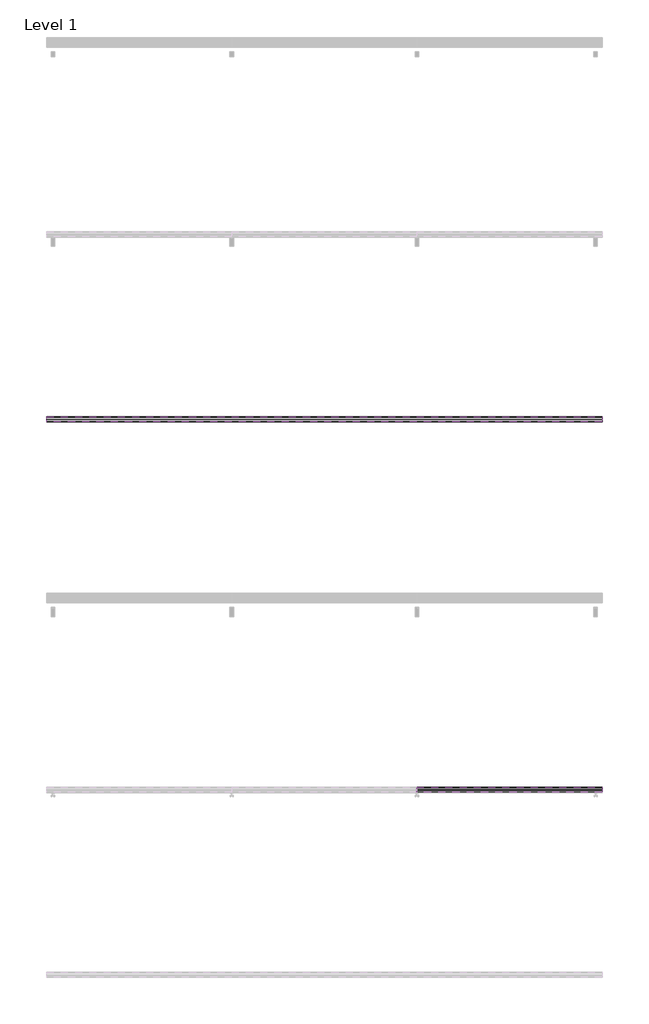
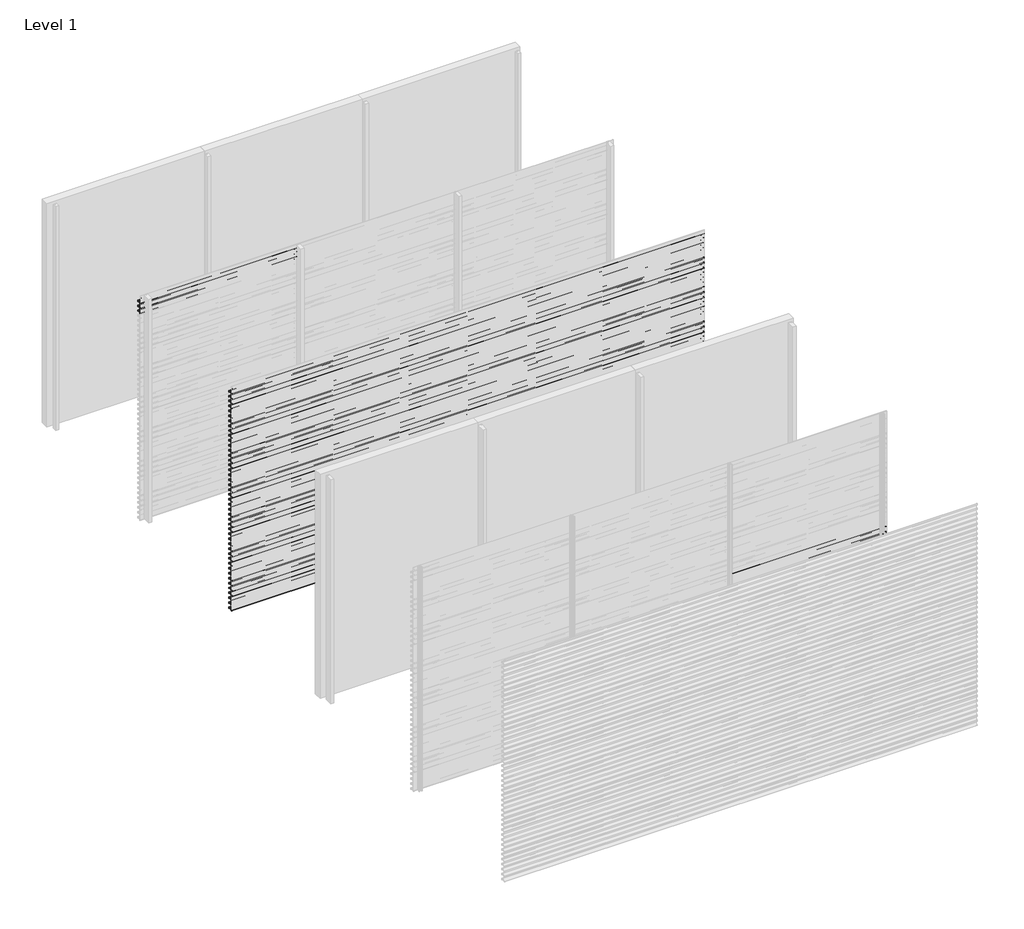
# One storey, part 10 of 27: 71 proxies.
"""IFC4 building model written with IfcOpenShell, lengths in millimetres."""

from ifc_helpers import new_model, si_unit, frame, origin, place, context, project, spatial, polyline, outline, extrude, element, save

model = new_model("IFC4")

# Units and contexts
model_context = context("Model", 3, world=origin())
ifc_project = project(units=[si_unit("LENGTHUNIT", "METRE", prefix="MILLI")], contexts=[model_context])

# Site, building, storey
site = spatial("IfcSite", under=ifc_project)
building = spatial("IfcBuilding", under=site)
storey = spatial("IfcBuildingStorey", under=building, Name="Level 1", Elevation=0.0)

# Proxies
placement = place(None, origin())
element("IfcBuildingElementProxy", 1, Name="Wall Sweeps", at=placement, inside=storey, context=model_context, shape_type="SweptSolid", body=[
    extrude(outline(polyline([(-35943.0, 2913.2), (-35943.0, 2893.5), (-35944.25, 2894.5866084), (-35944.25, 2912.4872415), (-35963.0322086, 2925.6010889), (-35995.1332975, 2893.5), (-35996.0525363, 2894.4192388), (-35964.1148087, 2926.3569665), (-35998.0, 2950.0158044), (-35998.0, 2970.0), (-35996.75, 2970.0), (-35996.75, 2950.7285629), (-35943.0, 2913.2)])), frame((0.0, 0.0, 0.0), z_axis=(1.0, 0.0, 0.0), x_axis=(0.0, 1.0, 0.0)), (0.0, 0.0, 1.0), 2000.0),
])
element("IfcBuildingElementProxy", 2, Name="Wall Sweeps", at=placement, inside=storey, context=model_context, shape_type="SweptSolid", body=[
    extrude(outline(polyline([(-35943.0, 2847.2), (-35943.0, 2827.5), (-35944.25, 2828.5866084), (-35944.25, 2846.4872415), (-35963.0322086, 2859.6010889), (-35995.1332975, 2827.5), (-35996.0525363, 2828.4192388), (-35964.1148087, 2860.3569665), (-35998.0, 2884.0158044), (-35998.0, 2904.0), (-35996.75, 2904.0), (-35996.75, 2884.7285629), (-35943.0, 2847.2)])), frame((0.0, 0.0, 0.0), z_axis=(1.0, 0.0, 0.0), x_axis=(0.0, 1.0, 0.0)), (0.0, 0.0, 1.0), 2000.0),
])
element("IfcBuildingElementProxy", 3, Name="Wall Sweeps", at=placement, inside=storey, context=model_context, shape_type="SweptSolid", body=[
    extrude(outline(polyline([(-35943.0, 2781.2), (-35943.0, 2761.5), (-35944.25, 2762.5866084), (-35944.25, 2780.4872415), (-35963.0322086, 2793.6010889), (-35995.1332975, 2761.5), (-35996.0525363, 2762.4192388), (-35964.1148087, 2794.3569665), (-35998.0, 2818.0158044), (-35998.0, 2838.0), (-35996.75, 2838.0), (-35996.75, 2818.7285629), (-35943.0, 2781.2)])), frame((0.0, 0.0, 0.0), z_axis=(1.0, 0.0, 0.0), x_axis=(0.0, 1.0, 0.0)), (0.0, 0.0, 1.0), 2000.0),
])
element("IfcBuildingElementProxy", 4, Name="Wall Sweeps", at=placement, inside=storey, context=model_context, shape_type="SweptSolid", body=[
    extrude(outline(polyline([(-37943.0, 2913.2), (-37943.0, 2893.5), (-37944.25, 2894.5866084), (-37944.25, 2912.4872415), (-37963.0322086, 2925.6010889), (-37995.1332975, 2893.5), (-37996.0525363, 2894.4192388), (-37964.1148087, 2926.3569665), (-37998.0, 2950.0158044), (-37998.0, 2970.0), (-37996.75, 2970.0), (-37996.75, 2950.7285629), (-37943.0, 2913.2)])), frame((0.0, 0.0, 0.0), z_axis=(1.0, 0.0, 0.0), x_axis=(0.0, 1.0, 0.0)), (0.0, 0.0, 1.0), 6000.0),
])
element("IfcBuildingElementProxy", 5, Name="Wall Sweeps", at=placement, inside=storey, context=model_context, shape_type="SweptSolid", body=[
    extrude(outline(polyline([(-37943.0, 2847.2), (-37943.0, 2827.5), (-37944.25, 2828.5866084), (-37944.25, 2846.4872415), (-37963.0322086, 2859.6010889), (-37995.1332975, 2827.5), (-37996.0525363, 2828.4192388), (-37964.1148087, 2860.3569665), (-37998.0, 2884.0158044), (-37998.0, 2904.0), (-37996.75, 2904.0), (-37996.75, 2884.7285629), (-37943.0, 2847.2)])), frame((0.0, 0.0, 0.0), z_axis=(1.0, 0.0, 0.0), x_axis=(0.0, 1.0, 0.0)), (0.0, 0.0, 1.0), 6000.0),
])
element("IfcBuildingElementProxy", 6, Name="Wall Sweeps", at=placement, inside=storey, context=model_context, shape_type="SweptSolid", body=[
    extrude(outline(polyline([(-37943.0, 2781.2), (-37943.0, 2761.5), (-37944.25, 2762.5866084), (-37944.25, 2780.4872415), (-37963.0322086, 2793.6010889), (-37995.1332975, 2761.5), (-37996.0525363, 2762.4192388), (-37964.1148087, 2794.3569665), (-37998.0, 2818.0158044), (-37998.0, 2838.0), (-37996.75, 2838.0), (-37996.75, 2818.7285629), (-37943.0, 2781.2)])), frame((0.0, 0.0, 0.0), z_axis=(1.0, 0.0, 0.0), x_axis=(0.0, 1.0, 0.0)), (0.0, 0.0, 1.0), 6000.0),
])
element("IfcBuildingElementProxy", 7, Name="Wall Sweeps", at=placement, inside=storey, context=model_context, shape_type="SweptSolid", body=[
    extrude(outline(polyline([(-37943.0, 2715.2), (-37943.0, 2695.5), (-37944.25, 2696.5866084), (-37944.25, 2714.4872415), (-37963.0322086, 2727.6010889), (-37995.1332975, 2695.5), (-37996.0525363, 2696.4192388), (-37964.1148087, 2728.3569665), (-37998.0, 2752.0158044), (-37998.0, 2772.0), (-37996.75, 2772.0), (-37996.75, 2752.7285629), (-37943.0, 2715.2)])), frame((0.0, 0.0, 0.0), z_axis=(1.0, 0.0, 0.0), x_axis=(0.0, 1.0, 0.0)), (0.0, 0.0, 1.0), 6000.0),
])
element("IfcBuildingElementProxy", 8, Name="Wall Sweeps", at=placement, inside=storey, context=model_context, shape_type="SweptSolid", body=[
    extrude(outline(polyline([(-37943.0, 2649.2), (-37943.0, 2629.5), (-37944.25, 2630.5866084), (-37944.25, 2648.4872415), (-37963.0322086, 2661.6010889), (-37995.1332975, 2629.5), (-37996.0525363, 2630.4192388), (-37964.1148087, 2662.3569665), (-37998.0, 2686.0158044), (-37998.0, 2706.0), (-37996.75, 2706.0), (-37996.75, 2686.7285629), (-37943.0, 2649.2)])), frame((0.0, 0.0, 0.0), z_axis=(1.0, 0.0, 0.0), x_axis=(0.0, 1.0, 0.0)), (0.0, 0.0, 1.0), 6000.0),
])
element("IfcBuildingElementProxy", 9, Name="Wall Sweeps", at=placement, inside=storey, context=model_context, shape_type="SweptSolid", body=[
    extrude(outline(polyline([(-37943.0, 2583.2), (-37943.0, 2563.5), (-37944.25, 2564.5866084), (-37944.25, 2582.4872415), (-37963.0322086, 2595.6010889), (-37995.1332975, 2563.5), (-37996.0525363, 2564.4192388), (-37964.1148087, 2596.3569665), (-37998.0, 2620.0158044), (-37998.0, 2640.0), (-37996.75, 2640.0), (-37996.75, 2620.7285629), (-37943.0, 2583.2)])), frame((0.0, 0.0, 0.0), z_axis=(1.0, 0.0, 0.0), x_axis=(0.0, 1.0, 0.0)), (0.0, 0.0, 1.0), 6000.0),
])
element("IfcBuildingElementProxy", 10, Name="Wall Sweeps", at=placement, inside=storey, context=model_context, shape_type="SweptSolid", body=[
    extrude(outline(polyline([(-37943.0, 2517.2), (-37943.0, 2497.5), (-37944.25, 2498.5866084), (-37944.25, 2516.4872415), (-37963.0322086, 2529.6010889), (-37995.1332975, 2497.5), (-37996.0525363, 2498.4192388), (-37964.1148087, 2530.3569665), (-37998.0, 2554.0158044), (-37998.0, 2574.0), (-37996.75, 2574.0), (-37996.75, 2554.7285629), (-37943.0, 2517.2)])), frame((0.0, 0.0, 0.0), z_axis=(1.0, 0.0, 0.0), x_axis=(0.0, 1.0, 0.0)), (0.0, 0.0, 1.0), 6000.0),
])
element("IfcBuildingElementProxy", 11, Name="Wall Sweeps", at=placement, inside=storey, context=model_context, shape_type="SweptSolid", body=[
    extrude(outline(polyline([(-37943.0, 2451.2), (-37943.0, 2431.5), (-37944.25, 2432.5866084), (-37944.25, 2450.4872415), (-37963.0322086, 2463.6010889), (-37995.1332975, 2431.5), (-37996.0525363, 2432.4192388), (-37964.1148087, 2464.3569665), (-37998.0, 2488.0158044), (-37998.0, 2508.0), (-37996.75, 2508.0), (-37996.75, 2488.7285629), (-37943.0, 2451.2)])), frame((0.0, 0.0, 0.0), z_axis=(1.0, 0.0, 0.0), x_axis=(0.0, 1.0, 0.0)), (0.0, 0.0, 1.0), 6000.0),
])
element("IfcBuildingElementProxy", 12, Name="Wall Sweeps", at=placement, inside=storey, context=model_context, shape_type="SweptSolid", body=[
    extrude(outline(polyline([(-37943.0, 2385.2), (-37943.0, 2365.5), (-37944.25, 2366.5866084), (-37944.25, 2384.4872415), (-37963.0322086, 2397.6010889), (-37995.1332975, 2365.5), (-37996.0525363, 2366.4192388), (-37964.1148087, 2398.3569665), (-37998.0, 2422.0158044), (-37998.0, 2442.0), (-37996.75, 2442.0), (-37996.75, 2422.7285629), (-37943.0, 2385.2)])), frame((0.0, 0.0, 0.0), z_axis=(1.0, 0.0, 0.0), x_axis=(0.0, 1.0, 0.0)), (0.0, 0.0, 1.0), 6000.0),
])
element("IfcBuildingElementProxy", 13, Name="Wall Sweeps", at=placement, inside=storey, context=model_context, shape_type="SweptSolid", body=[
    extrude(outline(polyline([(-37943.0, 2319.2), (-37943.0, 2299.5), (-37944.25, 2300.5866084), (-37944.25, 2318.4872415), (-37963.0322086, 2331.6010889), (-37995.1332975, 2299.5), (-37996.0525363, 2300.4192388), (-37964.1148087, 2332.3569665), (-37998.0, 2356.0158044), (-37998.0, 2376.0), (-37996.75, 2376.0), (-37996.75, 2356.7285629), (-37943.0, 2319.2)])), frame((0.0, 0.0, 0.0), z_axis=(1.0, 0.0, 0.0), x_axis=(0.0, 1.0, 0.0)), (0.0, 0.0, 1.0), 6000.0),
])
element("IfcBuildingElementProxy", 14, Name="Wall Sweeps", at=placement, inside=storey, context=model_context, shape_type="SweptSolid", body=[
    extrude(outline(polyline([(-37943.0, 2253.2), (-37943.0, 2233.5), (-37944.25, 2234.5866084), (-37944.25, 2252.4872415), (-37963.0322086, 2265.6010889), (-37995.1332975, 2233.5), (-37996.0525363, 2234.4192388), (-37964.1148087, 2266.3569665), (-37998.0, 2290.0158044), (-37998.0, 2310.0), (-37996.75, 2310.0), (-37996.75, 2290.7285629), (-37943.0, 2253.2)])), frame((0.0, 0.0, 0.0), z_axis=(1.0, 0.0, 0.0), x_axis=(0.0, 1.0, 0.0)), (0.0, 0.0, 1.0), 6000.0),
])
element("IfcBuildingElementProxy", 15, Name="Wall Sweeps", at=placement, inside=storey, context=model_context, shape_type="SweptSolid", body=[
    extrude(outline(polyline([(-37943.0, 2187.2), (-37943.0, 2167.5), (-37944.25, 2168.5866084), (-37944.25, 2186.4872415), (-37963.0322086, 2199.6010889), (-37995.1332975, 2167.5), (-37996.0525363, 2168.4192388), (-37964.1148087, 2200.3569665), (-37998.0, 2224.0158044), (-37998.0, 2244.0), (-37996.75, 2244.0), (-37996.75, 2224.7285629), (-37943.0, 2187.2)])), frame((0.0, 0.0, 0.0), z_axis=(1.0, 0.0, 0.0), x_axis=(0.0, 1.0, 0.0)), (0.0, 0.0, 1.0), 6000.0),
])
element("IfcBuildingElementProxy", 16, Name="Wall Sweeps", at=placement, inside=storey, context=model_context, shape_type="SweptSolid", body=[
    extrude(outline(polyline([(-37943.0, 2121.2), (-37943.0, 2101.5), (-37944.25, 2102.5866084), (-37944.25, 2120.4872415), (-37963.0322086, 2133.6010889), (-37995.1332975, 2101.5), (-37996.0525363, 2102.4192388), (-37964.1148087, 2134.3569665), (-37998.0, 2158.0158044), (-37998.0, 2178.0), (-37996.75, 2178.0), (-37996.75, 2158.7285629), (-37943.0, 2121.2)])), frame((0.0, 0.0, 0.0), z_axis=(1.0, 0.0, 0.0), x_axis=(0.0, 1.0, 0.0)), (0.0, 0.0, 1.0), 6000.0),
])
element("IfcBuildingElementProxy", 17, Name="Wall Sweeps", at=placement, inside=storey, context=model_context, shape_type="SweptSolid", body=[
    extrude(outline(polyline([(-37943.0, 2055.2), (-37943.0, 2035.5), (-37944.25, 2036.5866084), (-37944.25, 2054.4872415), (-37963.0322086, 2067.6010889), (-37995.1332975, 2035.5), (-37996.0525363, 2036.4192388), (-37964.1148087, 2068.3569665), (-37998.0, 2092.0158044), (-37998.0, 2112.0), (-37996.75, 2112.0), (-37996.75, 2092.7285629), (-37943.0, 2055.2)])), frame((0.0, 0.0, 0.0), z_axis=(1.0, 0.0, 0.0), x_axis=(0.0, 1.0, 0.0)), (0.0, 0.0, 1.0), 6000.0),
])
element("IfcBuildingElementProxy", 18, Name="Wall Sweeps", at=placement, inside=storey, context=model_context, shape_type="SweptSolid", body=[
    extrude(outline(polyline([(-37943.0, 1989.2), (-37943.0, 1969.5), (-37944.25, 1970.5866084), (-37944.25, 1988.4872415), (-37963.0322086, 2001.6010889), (-37995.1332975, 1969.5), (-37996.0525363, 1970.4192388), (-37964.1148087, 2002.3569665), (-37998.0, 2026.0158044), (-37998.0, 2046.0), (-37996.75, 2046.0), (-37996.75, 2026.7285629), (-37943.0, 1989.2)])), frame((0.0, 0.0, 0.0), z_axis=(1.0, 0.0, 0.0), x_axis=(0.0, 1.0, 0.0)), (0.0, 0.0, 1.0), 6000.0),
])
element("IfcBuildingElementProxy", 19, Name="Wall Sweeps", at=placement, inside=storey, context=model_context, shape_type="SweptSolid", body=[
    extrude(outline(polyline([(-37943.0, 1923.2), (-37943.0, 1903.5), (-37944.25, 1904.5866084), (-37944.25, 1922.4872415), (-37963.0322086, 1935.6010889), (-37995.1332975, 1903.5), (-37996.0525363, 1904.4192388), (-37964.1148087, 1936.3569665), (-37998.0, 1960.0158044), (-37998.0, 1980.0), (-37996.75, 1980.0), (-37996.75, 1960.7285629), (-37943.0, 1923.2)])), frame((0.0, 0.0, 0.0), z_axis=(1.0, 0.0, 0.0), x_axis=(0.0, 1.0, 0.0)), (0.0, 0.0, 1.0), 6000.0),
])
element("IfcBuildingElementProxy", 20, Name="Wall Sweeps", at=placement, inside=storey, context=model_context, shape_type="SweptSolid", body=[
    extrude(outline(polyline([(-37943.0, 1857.2), (-37943.0, 1837.5), (-37944.25, 1838.5866084), (-37944.25, 1856.4872415), (-37963.0322086, 1869.6010889), (-37995.1332975, 1837.5), (-37996.0525363, 1838.4192388), (-37964.1148087, 1870.3569665), (-37998.0, 1894.0158044), (-37998.0, 1914.0), (-37996.75, 1914.0), (-37996.75, 1894.7285629), (-37943.0, 1857.2)])), frame((0.0, 0.0, 0.0), z_axis=(1.0, 0.0, 0.0), x_axis=(0.0, 1.0, 0.0)), (0.0, 0.0, 1.0), 6000.0),
])
element("IfcBuildingElementProxy", 21, Name="Wall Sweeps", at=placement, inside=storey, context=model_context, shape_type="SweptSolid", body=[
    extrude(outline(polyline([(-37943.0, 1791.2), (-37943.0, 1771.5), (-37944.25, 1772.5866084), (-37944.25, 1790.4872415), (-37963.0322086, 1803.6010889), (-37995.1332975, 1771.5), (-37996.0525363, 1772.4192388), (-37964.1148087, 1804.3569665), (-37998.0, 1828.0158044), (-37998.0, 1848.0), (-37996.75, 1848.0), (-37996.75, 1828.7285629), (-37943.0, 1791.2)])), frame((0.0, 0.0, 0.0), z_axis=(1.0, 0.0, 0.0), x_axis=(0.0, 1.0, 0.0)), (0.0, 0.0, 1.0), 6000.0),
])
element("IfcBuildingElementProxy", 22, Name="Wall Sweeps", at=placement, inside=storey, context=model_context, shape_type="SweptSolid", body=[
    extrude(outline(polyline([(-37943.0, 1725.2), (-37943.0, 1705.5), (-37944.25, 1706.5866084), (-37944.25, 1724.4872415), (-37963.0322086, 1737.6010889), (-37995.1332975, 1705.5), (-37996.0525363, 1706.4192388), (-37964.1148087, 1738.3569665), (-37998.0, 1762.0158044), (-37998.0, 1782.0), (-37996.75, 1782.0), (-37996.75, 1762.7285629), (-37943.0, 1725.2)])), frame((0.0, 0.0, 0.0), z_axis=(1.0, 0.0, 0.0), x_axis=(0.0, 1.0, 0.0)), (0.0, 0.0, 1.0), 6000.0),
])
element("IfcBuildingElementProxy", 23, Name="Wall Sweeps", at=placement, inside=storey, context=model_context, shape_type="SweptSolid", body=[
    extrude(outline(polyline([(-37943.0, 1659.2), (-37943.0, 1639.5), (-37944.25, 1640.5866084), (-37944.25, 1658.4872415), (-37963.0322086, 1671.6010889), (-37995.1332975, 1639.5), (-37996.0525363, 1640.4192388), (-37964.1148087, 1672.3569665), (-37998.0, 1696.0158044), (-37998.0, 1716.0), (-37996.75, 1716.0), (-37996.75, 1696.7285629), (-37943.0, 1659.2)])), frame((0.0, 0.0, 0.0), z_axis=(1.0, 0.0, 0.0), x_axis=(0.0, 1.0, 0.0)), (0.0, 0.0, 1.0), 6000.0),
])
element("IfcBuildingElementProxy", 24, Name="Wall Sweeps", at=placement, inside=storey, context=model_context, shape_type="SweptSolid", body=[
    extrude(outline(polyline([(-37943.0, 1593.2), (-37943.0, 1573.5), (-37944.25, 1574.5866084), (-37944.25, 1592.4872415), (-37963.0322086, 1605.6010889), (-37995.1332975, 1573.5), (-37996.0525363, 1574.4192388), (-37964.1148087, 1606.3569665), (-37998.0, 1630.0158044), (-37998.0, 1650.0), (-37996.75, 1650.0), (-37996.75, 1630.7285629), (-37943.0, 1593.2)])), frame((0.0, 0.0, 0.0), z_axis=(1.0, 0.0, 0.0), x_axis=(0.0, 1.0, 0.0)), (0.0, 0.0, 1.0), 6000.0),
])
element("IfcBuildingElementProxy", 25, Name="Wall Sweeps", at=placement, inside=storey, context=model_context, shape_type="SweptSolid", body=[
    extrude(outline(polyline([(-37943.0, 1527.2), (-37943.0, 1507.5), (-37944.25, 1508.5866084), (-37944.25, 1526.4872415), (-37963.0322086, 1539.6010889), (-37995.1332975, 1507.5), (-37996.0525363, 1508.4192388), (-37964.1148087, 1540.3569665), (-37998.0, 1564.0158044), (-37998.0, 1584.0), (-37996.75, 1584.0), (-37996.75, 1564.7285629), (-37943.0, 1527.2)])), frame((0.0, 0.0, 0.0), z_axis=(1.0, 0.0, 0.0), x_axis=(0.0, 1.0, 0.0)), (0.0, 0.0, 1.0), 6000.0),
])
element("IfcBuildingElementProxy", 26, Name="Wall Sweeps", at=placement, inside=storey, context=model_context, shape_type="SweptSolid", body=[
    extrude(outline(polyline([(-37943.0, 1461.2), (-37943.0, 1441.5), (-37944.25, 1442.5866084), (-37944.25, 1460.4872415), (-37963.0322086, 1473.6010889), (-37995.1332975, 1441.5), (-37996.0525363, 1442.4192388), (-37964.1148087, 1474.3569665), (-37998.0, 1498.0158044), (-37998.0, 1518.0), (-37996.75, 1518.0), (-37996.75, 1498.7285629), (-37943.0, 1461.2)])), frame((0.0, 0.0, 0.0), z_axis=(1.0, 0.0, 0.0), x_axis=(0.0, 1.0, 0.0)), (0.0, 0.0, 1.0), 6000.0),
])
element("IfcBuildingElementProxy", 27, Name="Wall Sweeps", at=placement, inside=storey, context=model_context, shape_type="SweptSolid", body=[
    extrude(outline(polyline([(-37943.0, 1395.2), (-37943.0, 1375.5), (-37944.25, 1376.5866084), (-37944.25, 1394.4872415), (-37963.0322086, 1407.6010889), (-37995.1332975, 1375.5), (-37996.0525363, 1376.4192388), (-37964.1148087, 1408.3569665), (-37998.0, 1432.0158044), (-37998.0, 1452.0), (-37996.75, 1452.0), (-37996.75, 1432.7285629), (-37943.0, 1395.2)])), frame((0.0, 0.0, 0.0), z_axis=(1.0, 0.0, 0.0), x_axis=(0.0, 1.0, 0.0)), (0.0, 0.0, 1.0), 6000.0),
])
element("IfcBuildingElementProxy", 28, Name="Wall Sweeps", at=placement, inside=storey, context=model_context, shape_type="SweptSolid", body=[
    extrude(outline(polyline([(-37943.0, 1329.2), (-37943.0, 1309.5), (-37944.25, 1310.5866084), (-37944.25, 1328.4872415), (-37963.0322086, 1341.6010889), (-37995.1332975, 1309.5), (-37996.0525363, 1310.4192388), (-37964.1148087, 1342.3569665), (-37998.0, 1366.0158044), (-37998.0, 1386.0), (-37996.75, 1386.0), (-37996.75, 1366.7285629), (-37943.0, 1329.2)])), frame((0.0, 0.0, 0.0), z_axis=(1.0, 0.0, 0.0), x_axis=(0.0, 1.0, 0.0)), (0.0, 0.0, 1.0), 6000.0),
])
element("IfcBuildingElementProxy", 29, Name="Wall Sweeps", at=placement, inside=storey, context=model_context, shape_type="SweptSolid", body=[
    extrude(outline(polyline([(-37943.0, 1263.2), (-37943.0, 1243.5), (-37944.25, 1244.5866084), (-37944.25, 1262.4872415), (-37963.0322086, 1275.6010889), (-37995.1332975, 1243.5), (-37996.0525363, 1244.4192388), (-37964.1148087, 1276.3569665), (-37998.0, 1300.0158044), (-37998.0, 1320.0), (-37996.75, 1320.0), (-37996.75, 1300.7285629), (-37943.0, 1263.2)])), frame((0.0, 0.0, 0.0), z_axis=(1.0, 0.0, 0.0), x_axis=(0.0, 1.0, 0.0)), (0.0, 0.0, 1.0), 6000.0),
])
element("IfcBuildingElementProxy", 30, Name="Wall Sweeps", at=placement, inside=storey, context=model_context, shape_type="SweptSolid", body=[
    extrude(outline(polyline([(-37943.0, 1197.2), (-37943.0, 1177.5), (-37944.25, 1178.5866084), (-37944.25, 1196.4872415), (-37963.0322086, 1209.6010889), (-37995.1332975, 1177.5), (-37996.0525363, 1178.4192388), (-37964.1148087, 1210.3569665), (-37998.0, 1234.0158044), (-37998.0, 1254.0), (-37996.75, 1254.0), (-37996.75, 1234.7285629), (-37943.0, 1197.2)])), frame((0.0, 0.0, 0.0), z_axis=(1.0, 0.0, 0.0), x_axis=(0.0, 1.0, 0.0)), (0.0, 0.0, 1.0), 6000.0),
])
element("IfcBuildingElementProxy", 31, Name="Wall Sweeps", at=placement, inside=storey, context=model_context, shape_type="SweptSolid", body=[
    extrude(outline(polyline([(-37943.0, 1131.2), (-37943.0, 1111.5), (-37944.25, 1112.5866084), (-37944.25, 1130.4872415), (-37963.0322086, 1143.6010889), (-37995.1332975, 1111.5), (-37996.0525363, 1112.4192388), (-37964.1148087, 1144.3569665), (-37998.0, 1168.0158044), (-37998.0, 1188.0), (-37996.75, 1188.0), (-37996.75, 1168.7285629), (-37943.0, 1131.2)])), frame((0.0, 0.0, 0.0), z_axis=(1.0, 0.0, 0.0), x_axis=(0.0, 1.0, 0.0)), (0.0, 0.0, 1.0), 6000.0),
])
element("IfcBuildingElementProxy", 32, Name="Wall Sweeps", at=placement, inside=storey, context=model_context, shape_type="SweptSolid", body=[
    extrude(outline(polyline([(-37943.0, 1065.2), (-37943.0, 1045.5), (-37944.25, 1046.5866084), (-37944.25, 1064.4872415), (-37963.0322086, 1077.6010889), (-37995.1332975, 1045.5), (-37996.0525363, 1046.4192388), (-37964.1148087, 1078.3569665), (-37998.0, 1102.0158044), (-37998.0, 1122.0), (-37996.75, 1122.0), (-37996.75, 1102.7285629), (-37943.0, 1065.2)])), frame((0.0, 0.0, 0.0), z_axis=(1.0, 0.0, 0.0), x_axis=(0.0, 1.0, 0.0)), (0.0, 0.0, 1.0), 6000.0),
])
element("IfcBuildingElementProxy", 33, Name="Wall Sweeps", at=placement, inside=storey, context=model_context, shape_type="SweptSolid", body=[
    extrude(outline(polyline([(-37943.0, 999.2), (-37943.0, 979.5), (-37944.25, 980.5866084), (-37944.25, 998.4872415), (-37963.0322086, 1011.6010889), (-37995.1332975, 979.5), (-37996.0525363, 980.4192388), (-37964.1148087, 1012.3569665), (-37998.0, 1036.0158044), (-37998.0, 1056.0), (-37996.75, 1056.0), (-37996.75, 1036.7285629), (-37943.0, 999.2)])), frame((0.0, 0.0, 0.0), z_axis=(1.0, 0.0, 0.0), x_axis=(0.0, 1.0, 0.0)), (0.0, 0.0, 1.0), 6000.0),
])
element("IfcBuildingElementProxy", 34, Name="Wall Sweeps", at=placement, inside=storey, context=model_context, shape_type="SweptSolid", body=[
    extrude(outline(polyline([(-37943.0, 933.2), (-37943.0, 913.5), (-37944.25, 914.5866084), (-37944.25, 932.4872415), (-37963.0322086, 945.6010889), (-37995.1332975, 913.5), (-37996.0525363, 914.4192388), (-37964.1148087, 946.3569665), (-37998.0, 970.0158044), (-37998.0, 990.0), (-37996.75, 990.0), (-37996.75, 970.7285629), (-37943.0, 933.2)])), frame((0.0, 0.0, 0.0), z_axis=(1.0, 0.0, 0.0), x_axis=(0.0, 1.0, 0.0)), (0.0, 0.0, 1.0), 6000.0),
])
element("IfcBuildingElementProxy", 35, Name="Wall Sweeps", at=placement, inside=storey, context=model_context, shape_type="SweptSolid", body=[
    extrude(outline(polyline([(-37943.0, 867.2), (-37943.0, 847.5), (-37944.25, 848.5866084), (-37944.25, 866.4872415), (-37963.0322086, 879.6010889), (-37995.1332975, 847.5), (-37996.0525363, 848.4192388), (-37964.1148087, 880.3569665), (-37998.0, 904.0158044), (-37998.0, 924.0), (-37996.75, 924.0), (-37996.75, 904.7285629), (-37943.0, 867.2)])), frame((0.0, 0.0, 0.0), z_axis=(1.0, 0.0, 0.0), x_axis=(0.0, 1.0, 0.0)), (0.0, 0.0, 1.0), 6000.0),
])
element("IfcBuildingElementProxy", 36, Name="Wall Sweeps", at=placement, inside=storey, context=model_context, shape_type="SweptSolid", body=[
    extrude(outline(polyline([(-37943.0, 801.2), (-37943.0, 781.5), (-37944.25, 782.5866084), (-37944.25, 800.4872415), (-37963.0322086, 813.6010889), (-37995.1332975, 781.5), (-37996.0525363, 782.4192388), (-37964.1148087, 814.3569665), (-37998.0, 838.0158044), (-37998.0, 858.0), (-37996.75, 858.0), (-37996.75, 838.7285629), (-37943.0, 801.2)])), frame((0.0, 0.0, 0.0), z_axis=(1.0, 0.0, 0.0), x_axis=(0.0, 1.0, 0.0)), (0.0, 0.0, 1.0), 6000.0),
])
element("IfcBuildingElementProxy", 37, Name="Wall Sweeps", at=placement, inside=storey, context=model_context, shape_type="SweptSolid", body=[
    extrude(outline(polyline([(-37943.0, 735.2), (-37943.0, 715.5), (-37944.25, 716.5866084), (-37944.25, 734.4872415), (-37963.0322086, 747.6010889), (-37995.1332975, 715.5), (-37996.0525363, 716.4192388), (-37964.1148087, 748.3569665), (-37998.0, 772.0158044), (-37998.0, 792.0), (-37996.75, 792.0), (-37996.75, 772.7285629), (-37943.0, 735.2)])), frame((0.0, 0.0, 0.0), z_axis=(1.0, 0.0, 0.0), x_axis=(0.0, 1.0, 0.0)), (0.0, 0.0, 1.0), 6000.0),
])
element("IfcBuildingElementProxy", 38, Name="Wall Sweeps", at=placement, inside=storey, context=model_context, shape_type="SweptSolid", body=[
    extrude(outline(polyline([(-37943.0, 669.2), (-37943.0, 649.5), (-37944.25, 650.5866084), (-37944.25, 668.4872415), (-37963.0322086, 681.6010889), (-37995.1332975, 649.5), (-37996.0525363, 650.4192388), (-37964.1148087, 682.3569665), (-37998.0, 706.0158044), (-37998.0, 726.0), (-37996.75, 726.0), (-37996.75, 706.7285629), (-37943.0, 669.2)])), frame((0.0, 0.0, 0.0), z_axis=(1.0, 0.0, 0.0), x_axis=(0.0, 1.0, 0.0)), (0.0, 0.0, 1.0), 6000.0),
])
element("IfcBuildingElementProxy", 39, Name="Wall Sweeps", at=placement, inside=storey, context=model_context, shape_type="SweptSolid", body=[
    extrude(outline(polyline([(-37943.0, 603.2), (-37943.0, 583.5), (-37944.25, 584.5866084), (-37944.25, 602.4872415), (-37963.0322086, 615.6010889), (-37995.1332975, 583.5), (-37996.0525363, 584.4192388), (-37964.1148087, 616.3569665), (-37998.0, 640.0158044), (-37998.0, 660.0), (-37996.75, 660.0), (-37996.75, 640.7285629), (-37943.0, 603.2)])), frame((0.0, 0.0, 0.0), z_axis=(1.0, 0.0, 0.0), x_axis=(0.0, 1.0, 0.0)), (0.0, 0.0, 1.0), 6000.0),
])
element("IfcBuildingElementProxy", 40, Name="Wall Sweeps", at=placement, inside=storey, context=model_context, shape_type="SweptSolid", body=[
    extrude(outline(polyline([(-37943.0, 537.2), (-37943.0, 517.5), (-37944.25, 518.5866084), (-37944.25, 536.4872415), (-37963.0322086, 549.6010889), (-37995.1332975, 517.5), (-37996.0525363, 518.4192388), (-37964.1148087, 550.3569665), (-37998.0, 574.0158044), (-37998.0, 594.0), (-37996.75, 594.0), (-37996.75, 574.7285629), (-37943.0, 537.2)])), frame((0.0, 0.0, 0.0), z_axis=(1.0, 0.0, 0.0), x_axis=(0.0, 1.0, 0.0)), (0.0, 0.0, 1.0), 6000.0),
])
element("IfcBuildingElementProxy", 41, Name="Wall Sweeps", at=placement, inside=storey, context=model_context, shape_type="SweptSolid", body=[
    extrude(outline(polyline([(-37943.0, 471.2), (-37943.0, 451.5), (-37944.25, 452.5866084), (-37944.25, 470.4872415), (-37963.0322086, 483.6010889), (-37995.1332975, 451.5), (-37996.0525363, 452.4192388), (-37964.1148087, 484.3569665), (-37998.0, 508.0158044), (-37998.0, 528.0), (-37996.75, 528.0), (-37996.75, 508.7285629), (-37943.0, 471.2)])), frame((0.0, 0.0, 0.0), z_axis=(1.0, 0.0, 0.0), x_axis=(0.0, 1.0, 0.0)), (0.0, 0.0, 1.0), 6000.0),
])
element("IfcBuildingElementProxy", 42, Name="Wall Sweeps", at=placement, inside=storey, context=model_context, shape_type="SweptSolid", body=[
    extrude(outline(polyline([(-37943.0, 405.2), (-37943.0, 385.5), (-37944.25, 386.5866084), (-37944.25, 404.4872415), (-37963.0322086, 417.6010889), (-37995.1332975, 385.5), (-37996.0525363, 386.4192388), (-37964.1148087, 418.3569665), (-37998.0, 442.0158044), (-37998.0, 462.0), (-37996.75, 462.0), (-37996.75, 442.7285629), (-37943.0, 405.2)])), frame((0.0, 0.0, 0.0), z_axis=(1.0, 0.0, 0.0), x_axis=(0.0, 1.0, 0.0)), (0.0, 0.0, 1.0), 6000.0),
])
element("IfcBuildingElementProxy", 43, Name="Wall Sweeps", at=placement, inside=storey, context=model_context, shape_type="SweptSolid", body=[
    extrude(outline(polyline([(-37943.0, 339.2), (-37943.0, 319.5), (-37944.25, 320.5866084), (-37944.25, 338.4872415), (-37963.0322086, 351.6010889), (-37995.1332975, 319.5), (-37996.0525363, 320.4192388), (-37964.1148087, 352.3569665), (-37998.0, 376.0158044), (-37998.0, 396.0), (-37996.75, 396.0), (-37996.75, 376.7285629), (-37943.0, 339.2)])), frame((0.0, 0.0, 0.0), z_axis=(1.0, 0.0, 0.0), x_axis=(0.0, 1.0, 0.0)), (0.0, 0.0, 1.0), 6000.0),
])
element("IfcBuildingElementProxy", 44, Name="Wall Sweeps", at=placement, inside=storey, context=model_context, shape_type="SweptSolid", body=[
    extrude(outline(polyline([(-37943.0, 273.2), (-37943.0, 253.5), (-37944.25, 254.5866084), (-37944.25, 272.4872415), (-37963.0322086, 285.6010889), (-37995.1332975, 253.5), (-37996.0525363, 254.4192388), (-37964.1148087, 286.3569665), (-37998.0, 310.0158044), (-37998.0, 330.0), (-37996.75, 330.0), (-37996.75, 310.7285629), (-37943.0, 273.2)])), frame((0.0, 0.0, 0.0), z_axis=(1.0, 0.0, 0.0), x_axis=(0.0, 1.0, 0.0)), (0.0, 0.0, 1.0), 6000.0),
])
element("IfcBuildingElementProxy", 45, Name="Wall Sweeps", at=placement, inside=storey, context=model_context, shape_type="SweptSolid", body=[
    extrude(outline(polyline([(-37943.0, 207.2), (-37943.0, 187.5), (-37944.25, 188.5866084), (-37944.25, 206.4872415), (-37963.0322086, 219.6010889), (-37995.1332975, 187.5), (-37996.0525363, 188.4192388), (-37964.1148087, 220.3569665), (-37998.0, 244.0158044), (-37998.0, 264.0), (-37996.75, 264.0), (-37996.75, 244.7285629), (-37943.0, 207.2)])), frame((0.0, 0.0, 0.0), z_axis=(1.0, 0.0, 0.0), x_axis=(0.0, 1.0, 0.0)), (0.0, 0.0, 1.0), 6000.0),
])
element("IfcBuildingElementProxy", 46, Name="Wall Sweeps", at=placement, inside=storey, context=model_context, shape_type="SweptSolid", body=[
    extrude(outline(polyline([(-37943.0, 141.2), (-37943.0, 121.5), (-37944.25, 122.5866084), (-37944.25, 140.4872415), (-37963.0322086, 153.6010889), (-37995.1332975, 121.5), (-37996.0525363, 122.4192388), (-37964.1148087, 154.3569665), (-37998.0, 178.0158044), (-37998.0, 198.0), (-37996.75, 198.0), (-37996.75, 178.7285629), (-37943.0, 141.2)])), frame((0.0, 0.0, 0.0), z_axis=(1.0, 0.0, 0.0), x_axis=(0.0, 1.0, 0.0)), (0.0, 0.0, 1.0), 6000.0),
])
element("IfcBuildingElementProxy", 47, Name="Wall Sweeps", at=placement, inside=storey, context=model_context, shape_type="SweptSolid", body=[
    extrude(outline(polyline([(-37943.0, 75.2), (-37943.0, 55.5), (-37944.25, 56.5866084), (-37944.25, 74.4872415), (-37963.0322086, 87.6010889), (-37995.1332975, 55.5), (-37996.0525363, 56.4192388), (-37964.1148087, 88.3569665), (-37998.0, 112.0158044), (-37998.0, 132.0), (-37996.75, 132.0), (-37996.75, 112.7285629), (-37943.0, 75.2)])), frame((0.0, 0.0, 0.0), z_axis=(1.0, 0.0, 0.0), x_axis=(0.0, 1.0, 0.0)), (0.0, 0.0, 1.0), 6000.0),
])
element("IfcBuildingElementProxy", 48, Name="Wall Sweeps", at=placement, inside=storey, context=model_context, shape_type="SweptSolid", body=[
    extrude(outline(polyline([(-37943.0, 9.2), (-37943.0, -10.5), (-37944.25, -9.4133916), (-37944.25, 8.4872415), (-37963.0322086, 21.6010889), (-37995.1332975, -10.5), (-37996.0525363, -9.5807612), (-37964.1148087, 22.3569665), (-37998.0, 46.0158044), (-37998.0, 66.0), (-37996.75, 66.0), (-37996.75, 46.7285629), (-37943.0, 9.2)])), frame((0.0, 0.0, 0.0), z_axis=(1.0, 0.0, 0.0), x_axis=(0.0, 1.0, 0.0)), (0.0, 0.0, 1.0), 6000.0),
])
element("IfcBuildingElementProxy", 49, Name="Wall Sweeps", at=placement, inside=storey, context=model_context, shape_type="SweptSolid", body=[
    extrude(outline(polyline([(-41943.0, 1461.2), (-41943.0, 1441.5), (-41944.25, 1442.5866084), (-41944.25, 1460.4872415), (-41963.0322086, 1473.6010889), (-41995.1332975, 1441.5), (-41996.0525363, 1442.4192388), (-41964.1148087, 1474.3569665), (-41998.0, 1498.0158044), (-41998.0, 1518.0), (-41996.75, 1518.0), (-41996.75, 1498.7285629), (-41943.0, 1461.2)])), frame((4000.0, 0.0, 0.0), z_axis=(1.0, 0.0, 0.0), x_axis=(0.0, 1.0, 0.0)), (0.0, 0.0, 1.0), 2000.0),
])
element("IfcBuildingElementProxy", 50, Name="Wall Sweeps", at=placement, inside=storey, context=model_context, shape_type="SweptSolid", body=[
    extrude(outline(polyline([(-41943.0, 1395.2), (-41943.0, 1375.5), (-41944.25, 1376.5866084), (-41944.25, 1394.4872415), (-41963.0322086, 1407.6010889), (-41995.1332975, 1375.5), (-41996.0525363, 1376.4192388), (-41964.1148087, 1408.3569665), (-41998.0, 1432.0158044), (-41998.0, 1452.0), (-41996.75, 1452.0), (-41996.75, 1432.7285629), (-41943.0, 1395.2)])), frame((4000.0, 0.0, 0.0), z_axis=(1.0, 0.0, 0.0), x_axis=(0.0, 1.0, 0.0)), (0.0, 0.0, 1.0), 2000.0),
])
element("IfcBuildingElementProxy", 51, Name="Wall Sweeps", at=placement, inside=storey, context=model_context, shape_type="SweptSolid", body=[
    extrude(outline(polyline([(-41943.0, 1329.2), (-41943.0, 1309.5), (-41944.25, 1310.5866084), (-41944.25, 1328.4872415), (-41963.0322086, 1341.6010889), (-41995.1332975, 1309.5), (-41996.0525363, 1310.4192388), (-41964.1148087, 1342.3569665), (-41998.0, 1366.0158044), (-41998.0, 1386.0), (-41996.75, 1386.0), (-41996.75, 1366.7285629), (-41943.0, 1329.2)])), frame((4000.0, 0.0, 0.0), z_axis=(1.0, 0.0, 0.0), x_axis=(0.0, 1.0, 0.0)), (0.0, 0.0, 1.0), 2000.0),
])
element("IfcBuildingElementProxy", 52, Name="Wall Sweeps", at=placement, inside=storey, context=model_context, shape_type="SweptSolid", body=[
    extrude(outline(polyline([(-41943.0, 1263.2), (-41943.0, 1243.5), (-41944.25, 1244.5866084), (-41944.25, 1262.4872415), (-41963.0322086, 1275.6010889), (-41995.1332975, 1243.5), (-41996.0525363, 1244.4192388), (-41964.1148087, 1276.3569665), (-41998.0, 1300.0158044), (-41998.0, 1320.0), (-41996.75, 1320.0), (-41996.75, 1300.7285629), (-41943.0, 1263.2)])), frame((4000.0, 0.0, 0.0), z_axis=(1.0, 0.0, 0.0), x_axis=(0.0, 1.0, 0.0)), (0.0, 0.0, 1.0), 2000.0),
])
element("IfcBuildingElementProxy", 53, Name="Wall Sweeps", at=placement, inside=storey, context=model_context, shape_type="SweptSolid", body=[
    extrude(outline(polyline([(-41943.0, 1197.2), (-41943.0, 1177.5), (-41944.25, 1178.5866084), (-41944.25, 1196.4872415), (-41963.0322086, 1209.6010889), (-41995.1332975, 1177.5), (-41996.0525363, 1178.4192388), (-41964.1148087, 1210.3569665), (-41998.0, 1234.0158044), (-41998.0, 1254.0), (-41996.75, 1254.0), (-41996.75, 1234.7285629), (-41943.0, 1197.2)])), frame((4000.0, 0.0, 0.0), z_axis=(1.0, 0.0, 0.0), x_axis=(0.0, 1.0, 0.0)), (0.0, 0.0, 1.0), 2000.0),
])
element("IfcBuildingElementProxy", 54, Name="Wall Sweeps", at=placement, inside=storey, context=model_context, shape_type="SweptSolid", body=[
    extrude(outline(polyline([(-41943.0, 1131.2), (-41943.0, 1111.5), (-41944.25, 1112.5866084), (-41944.25, 1130.4872415), (-41963.0322086, 1143.6010889), (-41995.1332975, 1111.5), (-41996.0525363, 1112.4192388), (-41964.1148087, 1144.3569665), (-41998.0, 1168.0158044), (-41998.0, 1188.0), (-41996.75, 1188.0), (-41996.75, 1168.7285629), (-41943.0, 1131.2)])), frame((4000.0, 0.0, 0.0), z_axis=(1.0, 0.0, 0.0), x_axis=(0.0, 1.0, 0.0)), (0.0, 0.0, 1.0), 2000.0),
])
element("IfcBuildingElementProxy", 55, Name="Wall Sweeps", at=placement, inside=storey, context=model_context, shape_type="SweptSolid", body=[
    extrude(outline(polyline([(-41943.0, 1065.2), (-41943.0, 1045.5), (-41944.25, 1046.5866084), (-41944.25, 1064.4872415), (-41963.0322086, 1077.6010889), (-41995.1332975, 1045.5), (-41996.0525363, 1046.4192388), (-41964.1148087, 1078.3569665), (-41998.0, 1102.0158044), (-41998.0, 1122.0), (-41996.75, 1122.0), (-41996.75, 1102.7285629), (-41943.0, 1065.2)])), frame((4000.0, 0.0, 0.0), z_axis=(1.0, 0.0, 0.0), x_axis=(0.0, 1.0, 0.0)), (0.0, 0.0, 1.0), 2000.0),
])
element("IfcBuildingElementProxy", 56, Name="Wall Sweeps", at=placement, inside=storey, context=model_context, shape_type="SweptSolid", body=[
    extrude(outline(polyline([(-41943.0, 999.2), (-41943.0, 979.5), (-41944.25, 980.5866084), (-41944.25, 998.4872415), (-41963.0322086, 1011.6010889), (-41995.1332975, 979.5), (-41996.0525363, 980.4192388), (-41964.1148087, 1012.3569665), (-41998.0, 1036.0158044), (-41998.0, 1056.0), (-41996.75, 1056.0), (-41996.75, 1036.7285629), (-41943.0, 999.2)])), frame((4000.0, 0.0, 0.0), z_axis=(1.0, 0.0, 0.0), x_axis=(0.0, 1.0, 0.0)), (0.0, 0.0, 1.0), 2000.0),
])
element("IfcBuildingElementProxy", 57, Name="Wall Sweeps", at=placement, inside=storey, context=model_context, shape_type="SweptSolid", body=[
    extrude(outline(polyline([(-41943.0, 933.2), (-41943.0, 913.5), (-41944.25, 914.5866084), (-41944.25, 932.4872415), (-41963.0322086, 945.6010889), (-41995.1332975, 913.5), (-41996.0525363, 914.4192388), (-41964.1148087, 946.3569665), (-41998.0, 970.0158044), (-41998.0, 990.0), (-41996.75, 990.0), (-41996.75, 970.7285629), (-41943.0, 933.2)])), frame((4000.0, 0.0, 0.0), z_axis=(1.0, 0.0, 0.0), x_axis=(0.0, 1.0, 0.0)), (0.0, 0.0, 1.0), 2000.0),
])
element("IfcBuildingElementProxy", 58, Name="Wall Sweeps", at=placement, inside=storey, context=model_context, shape_type="SweptSolid", body=[
    extrude(outline(polyline([(-41943.0, 867.2), (-41943.0, 847.5), (-41944.25, 848.5866084), (-41944.25, 866.4872415), (-41963.0322086, 879.6010889), (-41995.1332975, 847.5), (-41996.0525363, 848.4192388), (-41964.1148087, 880.3569665), (-41998.0, 904.0158044), (-41998.0, 924.0), (-41996.75, 924.0), (-41996.75, 904.7285629), (-41943.0, 867.2)])), frame((4000.0, 0.0, 0.0), z_axis=(1.0, 0.0, 0.0), x_axis=(0.0, 1.0, 0.0)), (0.0, 0.0, 1.0), 2000.0),
])
element("IfcBuildingElementProxy", 59, Name="Wall Sweeps", at=placement, inside=storey, context=model_context, shape_type="SweptSolid", body=[
    extrude(outline(polyline([(-41943.0, 801.2), (-41943.0, 781.5), (-41944.25, 782.5866084), (-41944.25, 800.4872415), (-41963.0322086, 813.6010889), (-41995.1332975, 781.5), (-41996.0525363, 782.4192388), (-41964.1148087, 814.3569665), (-41998.0, 838.0158044), (-41998.0, 858.0), (-41996.75, 858.0), (-41996.75, 838.7285629), (-41943.0, 801.2)])), frame((4000.0, 0.0, 0.0), z_axis=(1.0, 0.0, 0.0), x_axis=(0.0, 1.0, 0.0)), (0.0, 0.0, 1.0), 2000.0),
])
element("IfcBuildingElementProxy", 60, Name="Wall Sweeps", at=placement, inside=storey, context=model_context, shape_type="SweptSolid", body=[
    extrude(outline(polyline([(-41943.0, 735.2), (-41943.0, 715.5), (-41944.25, 716.5866084), (-41944.25, 734.4872415), (-41963.0322086, 747.6010889), (-41995.1332975, 715.5), (-41996.0525363, 716.4192388), (-41964.1148087, 748.3569665), (-41998.0, 772.0158044), (-41998.0, 792.0), (-41996.75, 792.0), (-41996.75, 772.7285629), (-41943.0, 735.2)])), frame((4000.0, 0.0, 0.0), z_axis=(1.0, 0.0, 0.0), x_axis=(0.0, 1.0, 0.0)), (0.0, 0.0, 1.0), 2000.0),
])
element("IfcBuildingElementProxy", 61, Name="Wall Sweeps", at=placement, inside=storey, context=model_context, shape_type="SweptSolid", body=[
    extrude(outline(polyline([(-41943.0, 669.2), (-41943.0, 649.5), (-41944.25, 650.5866084), (-41944.25, 668.4872415), (-41963.0322086, 681.6010889), (-41995.1332975, 649.5), (-41996.0525363, 650.4192388), (-41964.1148087, 682.3569665), (-41998.0, 706.0158044), (-41998.0, 726.0), (-41996.75, 726.0), (-41996.75, 706.7285629), (-41943.0, 669.2)])), frame((4000.0, 0.0, 0.0), z_axis=(1.0, 0.0, 0.0), x_axis=(0.0, 1.0, 0.0)), (0.0, 0.0, 1.0), 2000.0),
])
element("IfcBuildingElementProxy", 62, Name="Wall Sweeps", at=placement, inside=storey, context=model_context, shape_type="SweptSolid", body=[
    extrude(outline(polyline([(-41943.0, 603.2), (-41943.0, 583.5), (-41944.25, 584.5866084), (-41944.25, 602.4872415), (-41963.0322086, 615.6010889), (-41995.1332975, 583.5), (-41996.0525363, 584.4192388), (-41964.1148087, 616.3569665), (-41998.0, 640.0158044), (-41998.0, 660.0), (-41996.75, 660.0), (-41996.75, 640.7285629), (-41943.0, 603.2)])), frame((4000.0, 0.0, 0.0), z_axis=(1.0, 0.0, 0.0), x_axis=(0.0, 1.0, 0.0)), (0.0, 0.0, 1.0), 2000.0),
])
element("IfcBuildingElementProxy", 63, Name="Wall Sweeps", at=placement, inside=storey, context=model_context, shape_type="SweptSolid", body=[
    extrude(outline(polyline([(-41943.0, 537.2), (-41943.0, 517.5), (-41944.25, 518.5866084), (-41944.25, 536.4872415), (-41963.0322086, 549.6010889), (-41995.1332975, 517.5), (-41996.0525363, 518.4192388), (-41964.1148087, 550.3569665), (-41998.0, 574.0158044), (-41998.0, 594.0), (-41996.75, 594.0), (-41996.75, 574.7285629), (-41943.0, 537.2)])), frame((4000.0, 0.0, 0.0), z_axis=(1.0, 0.0, 0.0), x_axis=(0.0, 1.0, 0.0)), (0.0, 0.0, 1.0), 2000.0),
])
element("IfcBuildingElementProxy", 64, Name="Wall Sweeps", at=placement, inside=storey, context=model_context, shape_type="SweptSolid", body=[
    extrude(outline(polyline([(-41943.0, 471.2), (-41943.0, 451.5), (-41944.25, 452.5866084), (-41944.25, 470.4872415), (-41963.0322086, 483.6010889), (-41995.1332975, 451.5), (-41996.0525363, 452.4192388), (-41964.1148087, 484.3569665), (-41998.0, 508.0158044), (-41998.0, 528.0), (-41996.75, 528.0), (-41996.75, 508.7285629), (-41943.0, 471.2)])), frame((4000.0, 0.0, 0.0), z_axis=(1.0, 0.0, 0.0), x_axis=(0.0, 1.0, 0.0)), (0.0, 0.0, 1.0), 2000.0),
])
element("IfcBuildingElementProxy", 65, Name="Wall Sweeps", at=placement, inside=storey, context=model_context, shape_type="SweptSolid", body=[
    extrude(outline(polyline([(-41943.0, 405.2), (-41943.0, 385.5), (-41944.25, 386.5866084), (-41944.25, 404.4872415), (-41963.0322086, 417.6010889), (-41995.1332975, 385.5), (-41996.0525363, 386.4192388), (-41964.1148087, 418.3569665), (-41998.0, 442.0158044), (-41998.0, 462.0), (-41996.75, 462.0), (-41996.75, 442.7285629), (-41943.0, 405.2)])), frame((4000.0, 0.0, 0.0), z_axis=(1.0, 0.0, 0.0), x_axis=(0.0, 1.0, 0.0)), (0.0, 0.0, 1.0), 2000.0),
])
element("IfcBuildingElementProxy", 66, Name="Wall Sweeps", at=placement, inside=storey, context=model_context, shape_type="SweptSolid", body=[
    extrude(outline(polyline([(-41943.0, 339.2), (-41943.0, 319.5), (-41944.25, 320.5866084), (-41944.25, 338.4872415), (-41963.0322086, 351.6010889), (-41995.1332975, 319.5), (-41996.0525363, 320.4192388), (-41964.1148087, 352.3569665), (-41998.0, 376.0158044), (-41998.0, 396.0), (-41996.75, 396.0), (-41996.75, 376.7285629), (-41943.0, 339.2)])), frame((4000.0, 0.0, 0.0), z_axis=(1.0, 0.0, 0.0), x_axis=(0.0, 1.0, 0.0)), (0.0, 0.0, 1.0), 2000.0),
])
element("IfcBuildingElementProxy", 67, Name="Wall Sweeps", at=placement, inside=storey, context=model_context, shape_type="SweptSolid", body=[
    extrude(outline(polyline([(-41943.0, 273.2), (-41943.0, 253.5), (-41944.25, 254.5866084), (-41944.25, 272.4872415), (-41963.0322086, 285.6010889), (-41995.1332975, 253.5), (-41996.0525363, 254.4192388), (-41964.1148087, 286.3569665), (-41998.0, 310.0158044), (-41998.0, 330.0), (-41996.75, 330.0), (-41996.75, 310.7285629), (-41943.0, 273.2)])), frame((4000.0, 0.0, 0.0), z_axis=(1.0, 0.0, 0.0), x_axis=(0.0, 1.0, 0.0)), (0.0, 0.0, 1.0), 2000.0),
])
element("IfcBuildingElementProxy", 68, Name="Wall Sweeps", at=placement, inside=storey, context=model_context, shape_type="SweptSolid", body=[
    extrude(outline(polyline([(-41943.0, 207.2), (-41943.0, 187.5), (-41944.25, 188.5866084), (-41944.25, 206.4872415), (-41963.0322086, 219.6010889), (-41995.1332975, 187.5), (-41996.0525363, 188.4192388), (-41964.1148087, 220.3569665), (-41998.0, 244.0158044), (-41998.0, 264.0), (-41996.75, 264.0), (-41996.75, 244.7285629), (-41943.0, 207.2)])), frame((4000.0, 0.0, 0.0), z_axis=(1.0, 0.0, 0.0), x_axis=(0.0, 1.0, 0.0)), (0.0, 0.0, 1.0), 2000.0),
])
element("IfcBuildingElementProxy", 69, Name="Wall Sweeps", at=placement, inside=storey, context=model_context, shape_type="SweptSolid", body=[
    extrude(outline(polyline([(-41943.0, 141.2), (-41943.0, 121.5), (-41944.25, 122.5866084), (-41944.25, 140.4872415), (-41963.0322086, 153.6010889), (-41995.1332975, 121.5), (-41996.0525363, 122.4192388), (-41964.1148087, 154.3569665), (-41998.0, 178.0158044), (-41998.0, 198.0), (-41996.75, 198.0), (-41996.75, 178.7285629), (-41943.0, 141.2)])), frame((4000.0, 0.0, 0.0), z_axis=(1.0, 0.0, 0.0), x_axis=(0.0, 1.0, 0.0)), (0.0, 0.0, 1.0), 2000.0),
])
element("IfcBuildingElementProxy", 70, Name="Wall Sweeps", at=placement, inside=storey, context=model_context, shape_type="SweptSolid", body=[
    extrude(outline(polyline([(-41943.0, 75.2), (-41943.0, 55.5), (-41944.25, 56.5866084), (-41944.25, 74.4872415), (-41963.0322086, 87.6010889), (-41995.1332975, 55.5), (-41996.0525363, 56.4192388), (-41964.1148087, 88.3569665), (-41998.0, 112.0158044), (-41998.0, 132.0), (-41996.75, 132.0), (-41996.75, 112.7285629), (-41943.0, 75.2)])), frame((4000.0, 0.0, 0.0), z_axis=(1.0, 0.0, 0.0), x_axis=(0.0, 1.0, 0.0)), (0.0, 0.0, 1.0), 2000.0),
])
element("IfcBuildingElementProxy", 71, Name="Wall Sweeps", at=placement, inside=storey, context=model_context, shape_type="SweptSolid", body=[
    extrude(outline(polyline([(-41943.0, 9.2), (-41943.0, -10.5), (-41944.25, -9.4133916), (-41944.25, 8.4872415), (-41963.0322086, 21.6010889), (-41995.1332975, -10.5), (-41996.0525363, -9.5807612), (-41964.1148087, 22.3569665), (-41998.0, 46.0158044), (-41998.0, 66.0), (-41996.75, 66.0), (-41996.75, 46.7285629), (-41943.0, 9.2)])), frame((4000.0, 0.0, 0.0), z_axis=(1.0, 0.0, 0.0), x_axis=(0.0, 1.0, 0.0)), (0.0, 0.0, 1.0), 2000.0),
])

save(model, "model.ifc")
